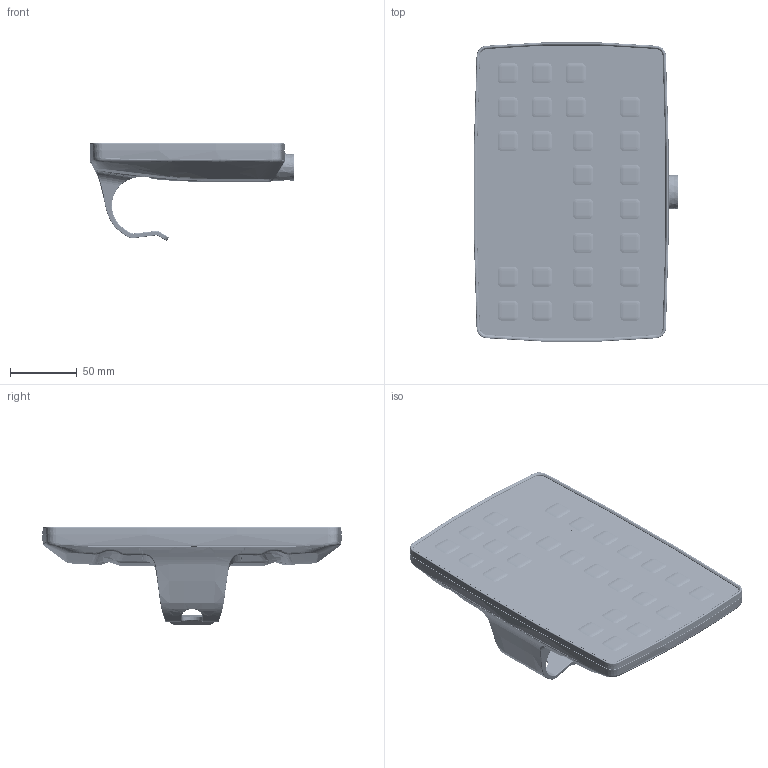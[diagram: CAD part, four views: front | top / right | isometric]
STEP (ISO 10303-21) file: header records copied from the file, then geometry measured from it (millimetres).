
FILE_DESCRIPTION((''),'2;1');
FILE_NAME('1093W9001_ASM','2024-04-23T11:20:41',('cnlw'),(''),'CREO PARAMETRIC BY PTC INC, 2022024','CREO PARAMETRIC BY PTC INC, 2022024','');
FILE_SCHEMA(('AUTOMOTIVE_DESIGN { 1 0 10303 214 1 1 1 1 }'));
Products named in the file (15): 1093W1001; 1093W1002; 1093W6001; MODULARJACK-10_METAL; SDTM-6; QTLP600C-0603-K1; SD-505110-30P; 1093W6001_ASM; 1034W1009; 0830900; 1034W1007; DISPLAY-ACOD_ASM; 1093W1003; 0931211; 1093W9001_ASM
Assembly tree (16 placements, depth 3):
  1093W9001_ASM
    1093W1001
    1093W1002
    1093W6001_ASM
      1093W6001
      MODULARJACK-10_METAL
      SDTM-6
      QTLP600C-0603-K1  x3
      SD-505110-30P
    DISPLAY-ACOD_ASM
      1034W1009
      0830900
      1034W1007
    1093W1003
    0931211
Bounding box: 152.55 x 223.38 x 72.92 mm (x, y, z)
Volume: 277136.6 mm3; surface area: 339954.3 mm2
Topology: 14 solids, 23 shells, 13151 faces, 33166 edges, 20283 vertices
Faces by surface type: plane 4368, bspline 3050, cylinder 2210, cone 1812, torus 1333, sphere 375, extrusion 2, revolution 1
Entity records: 679608 total; most frequent: CARTESIAN_POINT 234993, ORIENTED_EDGE 66120, DIRECTION 58440, PRESENTATION_STYLE_ASSIGNMENT 35115, STYLED_ITEM 34858, EDGE_CURVE 33060, CURVE_STYLE 25405, AXIS2_PLACEMENT_3D 21847
